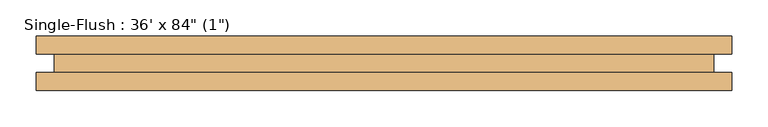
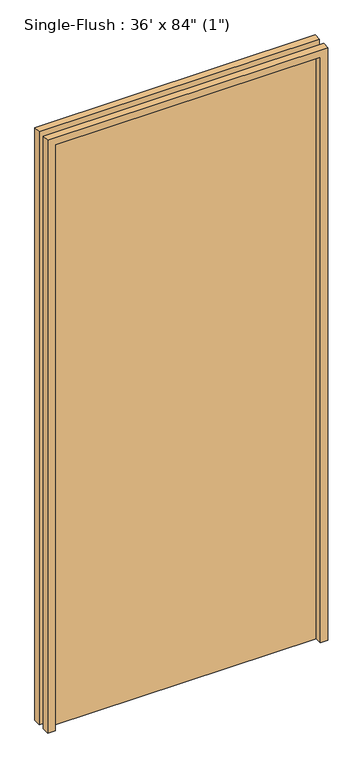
"""IFC4 building model written with IfcOpenShell, lengths in millimetres: door geometry."""

import ifcopenshell
import ifcopenshell.guid

model = None  # the IFC model being written
_history = None  # IfcOwnerHistory: only IFC2X3 demands one
_inside = {}  # id of a spatial element -> (the spatial element, [elements in it])
_under = {}  # id of a project, library or spatial element -> (it, [spatial elements below it])
_declared = {}  # id of a project -> (the project, [libraries it declares])
_typed = {}  # id of a type object -> (the type object, [elements of that type])
_made_of = {}  # id of a material, layer set ... -> (it, [elements and type objects made of it])


def new_model(schema):
    """Start an empty IFC model of exactly this schema.

    Asked for "IFC4X3", IfcOpenShell would pick the latest addendum, in which some entities
    have other attributes; the version numbers below select the first issue.
    IFC2X3 requires an IfcOwnerHistory on every rooted entity: one is made here for all.
    """
    global model, _history
    if schema == "IFC4X3":
        model = ifcopenshell.file(schema_version=(4, 3, 0, 0))
    else:
        model = ifcopenshell.file(schema=schema)
    _inside.clear()
    _under.clear()
    _declared.clear()
    _typed.clear()
    _made_of.clear()
    _history = None
    if model.schema == "IFC2X3":
        org = make("IfcOrganization", Name="unknown")
        user = make(
            "IfcPersonAndOrganization",
            ThePerson=make("IfcPerson", FamilyName="unknown"),
            TheOrganization=org,
        )
        app = make(
            "IfcApplication",
            ApplicationDeveloper=org,
            Version="unknown",
            ApplicationFullName="unknown",
            ApplicationIdentifier="unknown",
        )
        _history = make(
            "IfcOwnerHistory",
            OwningUser=user,
            OwningApplication=app,
            ChangeAction="ADDED",
            CreationDate=0,
        )
    return model


def make(cls, **values):
    """One entity of the class cls with the attributes given. An attribute that is None is left unset."""
    return model.create_entity(
        cls, **{name: value for name, value in values.items() if value is not None}
    )


def rooted(cls, **values):
    """An entity with a GlobalId (a new one), such as an element, a storey or a relation."""
    return make(cls, GlobalId=ifcopenshell.guid.new(), OwnerHistory=_history, **values)


def si_unit(unit_type, name, prefix=None):
    """IfcSIUnit, for example si_unit("LENGTHUNIT", "METRE", prefix="MILLI")."""
    return make("IfcSIUnit", UnitType=unit_type, Prefix=prefix, Name=name)


def assignment(units):
    """IfcUnitAssignment: the units of a project."""
    return None if units is None else make("IfcUnitAssignment", Units=units)


def point(xyz):
    """IfcCartesianPoint."""
    return None if xyz is None else make("IfcCartesianPoint", Coordinates=xyz)


def direction(xyz):
    """IfcDirection."""
    return None if xyz is None else make("IfcDirection", DirectionRatios=xyz)


def frame(location, z_axis=None, x_axis=None):
    """IfcAxis2Placement3D, a coordinate frame: its origin and axes. An axis left out is left unset."""
    return make(
        "IfcAxis2Placement3D",
        Location=point(location),
        Axis=direction(z_axis),
        RefDirection=direction(x_axis),
    )


def origin():
    """The frame at (0, 0, 0) with its axes left unset."""
    return frame((0.0, 0.0, 0.0))


def origin_with_axes():
    """The frame at (0, 0, 0) with the z axis (0, 0, 1) and the x axis (1, 0, 0) written out."""
    return frame((0.0, 0.0, 0.0), z_axis=(0.0, 0.0, 1.0), x_axis=(1.0, 0.0, 0.0))


def place(relative_to, where):
    """IfcLocalPlacement: puts the frame where relative to a parent placement (None: the world)."""
    return make(
        "IfcLocalPlacement", PlacementRelTo=relative_to, RelativePlacement=where
    )


def context(
    kind, dimensions, precision=None, world=None, true_north=None, identifier=None
):
    """IfcGeometricRepresentationContext, for example the 3D "Model" context."""
    return make(
        "IfcGeometricRepresentationContext",
        ContextIdentifier=identifier,
        ContextType=kind,
        CoordinateSpaceDimension=dimensions,
        Precision=precision,
        WorldCoordinateSystem=world,
        TrueNorth=true_north,
    )


def project(units=None, contexts=None):
    """IfcProject with its units and contexts."""
    return rooted(
        "IfcProject",
        Name="project",
        RepresentationContexts=contexts,
        UnitsInContext=assignment(units),
    )


def spatial(cls, under=None, at=None, **own):
    """A site, building, storey or space (cls), placed at a placement, below another one or the project."""
    s = rooted(cls, ObjectPlacement=at, **own)
    if under is not None:
        _under.setdefault(under.id(), (under, []))[1].append(s)
    return s


def polyline(points):
    """IfcPolyline through the points."""
    return make("IfcPolyline", Points=[point(p) for p in points])


def outline(outer, holes=None, kind="AREA"):
    """IfcArbitraryClosedProfileDef: a profile drawn as a closed curve; with holes, ...WithVoids."""
    if holes is None:
        return make("IfcArbitraryClosedProfileDef", ProfileType=kind, OuterCurve=outer)
    return make(
        "IfcArbitraryProfileDefWithVoids",
        ProfileType=kind,
        OuterCurve=outer,
        InnerCurves=holes,
    )


def extrude(swept, where, along, depth):
    """IfcExtrudedAreaSolid: the profile swept, set in the frame where, extruded along a direction by depth."""
    return make(
        "IfcExtrudedAreaSolid",
        SweptArea=swept,
        Position=where,
        ExtrudedDirection=direction(along),
        Depth=depth,
    )


def shape(context_of_items, identifier, shape_type, items):
    """IfcShapeRepresentation: the items that make up one representation, for example the "Body"."""
    return make(
        "IfcShapeRepresentation",
        ContextOfItems=context_of_items,
        RepresentationIdentifier=identifier,
        RepresentationType=shape_type,
        Items=items,
    )


def source(mapping_origin, context_of_items, identifier, shape_type, items):
    """IfcRepresentationMap: a shape defined once, which mapped items show again and again."""
    return make(
        "IfcRepresentationMap",
        MappingOrigin=mapping_origin,
        MappedRepresentation=shape(context_of_items, identifier, shape_type, items),
    )


def transform(
    local_origin,
    x_axis=None,
    y_axis=None,
    z_axis=None,
    scale=None,
    scale2=None,
    scale3=None,
    uniform=True,
):
    """IfcCartesianTransformationOperator3D, or its non-uniform kind. x_axis, y_axis, z_axis: its Axis1, 2, 3."""
    if uniform:
        return make(
            "IfcCartesianTransformationOperator3D",
            Axis1=direction(x_axis),
            Axis2=direction(y_axis),
            LocalOrigin=point(local_origin),
            Scale=scale,
            Axis3=direction(z_axis),
        )
    return make(
        "IfcCartesianTransformationOperator3DnonUniform",
        Axis1=direction(x_axis),
        Axis2=direction(y_axis),
        LocalOrigin=point(local_origin),
        Scale=scale,
        Axis3=direction(z_axis),
        Scale2=scale2,
        Scale3=scale3,
    )


def mapped(mapping_source, mapping_target):
    """IfcMappedItem: shows the shape of a source again, moved by a transform."""
    return make(
        "IfcMappedItem", MappingSource=mapping_source, MappingTarget=mapping_target
    )


def made_of(thing, what):
    """Note that an element or type object is made of a material, layer set ...; save() writes the relation."""
    if what is not None:
        _made_of.setdefault(what.id(), (what, []))[1].append(thing)
    return thing


def element(
    cls,
    number,
    at=None,
    inside=None,
    cuts=None,
    type_object=None,
    material=None,
    context=None,
    identifier="Body",
    shape_type=None,
    held_by="IfcProductDefinitionShape",
    body=None,
    shapes=None,
    **own,
):
    """One element of the class cls, such as IfcWall. Its Tag is "e" and its number.

    at: its placement. inside: the storey or other place that contains it. cuts: it is an
    opening in that element (IfcRelVoidsElement). A single representation is given by context,
    identifier, shape_type and body (its items); several are given by shapes. held_by: the class
    of the entity that holds the representations. save() writes the other relations.
    """
    e = rooted(cls, Tag="e%d" % number, ObjectPlacement=at, **own)
    if body is not None:
        shapes = [shape(context, identifier, shape_type, body)]
    if shapes is not None:
        e.Representation = make(held_by, Representations=shapes)
    if inside is not None:
        _inside.setdefault(inside.id(), (inside, []))[1].append(e)
    if cuts is not None:
        rooted(
            "IfcRelVoidsElement", RelatingBuildingElement=cuts, RelatedOpeningElement=e
        )
    if type_object is not None:
        _typed.setdefault(type_object.id(), (type_object, []))[1].append(e)
    return made_of(e, material)


def aggregate(whole, parts):
    """IfcRelAggregates: a whole, such as a stair, and the parts it consists of."""
    return rooted("IfcRelAggregates", RelatingObject=whole, RelatedObjects=parts)


def save(model, path):
    """Write the relations noted so far, then the file.

    IfcRelAggregates (storeys below a building ...), IfcRelContainedInSpatialStructure (elements
    in a storey), IfcRelDefinesByType, IfcRelAssociatesMaterial and IfcRelDeclares: one each for
    every whole, place, type object, material and project.
    """
    for whole, parts in _under.values():
        aggregate(whole, parts)
    for where, things in _inside.values():
        rooted(
            "IfcRelContainedInSpatialStructure",
            RelatedElements=things,
            RelatingStructure=where,
        )
    for kind, things in _typed.values():
        rooted("IfcRelDefinesByType", RelatedObjects=things, RelatingType=kind)
    for what, things in _made_of.values():
        rooted("IfcRelAssociatesMaterial", RelatedObjects=things, RelatingMaterial=what)
    for by, libraries in _declared.values():
        rooted("IfcRelDeclares", RelatingContext=by, RelatedDefinitions=libraries)
    model.write(path)


def door_d072e4ca(model_context):
    return source(origin(), model_context, "Body", "SweptSolid", [
        extrude(outline(polyline([(2159.0, -482.6), (0.0, -482.6), (0.0, -457.2), (2133.6, -457.2), (2133.6, 457.2), (0.0, 457.2), (0.0, 482.6), (2159.0, 482.6), (2159.0, -482.6)])), frame((0.0, -38.1, 0.0), z_axis=(0.0, 1.0, 0.0), x_axis=(0.0, 0.0, 1.0)), (0.0, 0.0, 1.0), 25.4),
        extrude(outline(polyline([(2159.0, 482.6), (2159.0, -482.6), (0.0, -482.6), (0.0, -457.2), (2133.6, -457.2), (2133.6, 457.2), (0.0, 457.2), (0.0, 482.6), (2159.0, 482.6)])), frame((0.0, 12.7, 0.0), z_axis=(0.0, 1.0, 0.0), x_axis=(0.0, 0.0, 1.0)), (0.0, 0.0, 1.0), 25.4),
        extrude(outline(polyline([(457.2, 12.7), (457.2, -12.7), (-457.2, -12.7), (-457.2, 12.7), (457.2, 12.7)])), origin_with_axes(), (0.0, 0.0, 1.0), 2133.6),
    ])


if __name__ == "__main__":
    model = new_model("IFC4")
    model_context = context("Model", 3, world=origin())
    ifc_project = project(units=[si_unit("LENGTHUNIT", "METRE", prefix="MILLI")], contexts=[model_context])
    site = spatial("IfcSite", under=ifc_project)
    building = spatial("IfcBuilding", under=site)
    placement = place(None, origin())
    door_shape = door_d072e4ca(model_context)
    element("IfcDoor", 1, ObjectType="Single-Flush : 36' x 84\" (1\")", at=placement, inside=building, context=model_context, shape_type="MappedRepresentation", body=[
        mapped(door_shape, transform((0.0, 0.0, 0.0), x_axis=(1.0, 0.0, 0.0), y_axis=(0.0, 1.0, 0.0), z_axis=(0.0, 0.0, 1.0))),
    ])
    save(model, "model.ifc")
